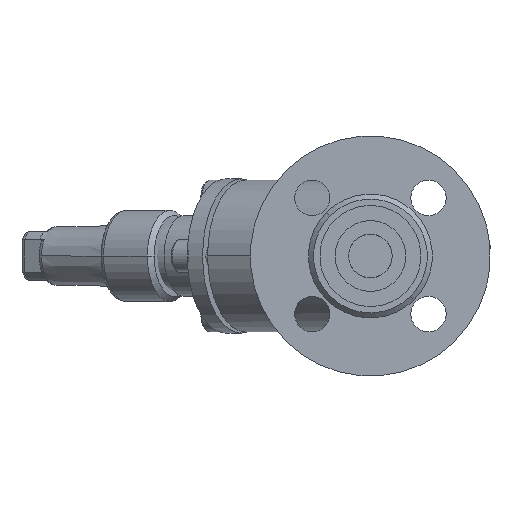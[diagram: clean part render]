
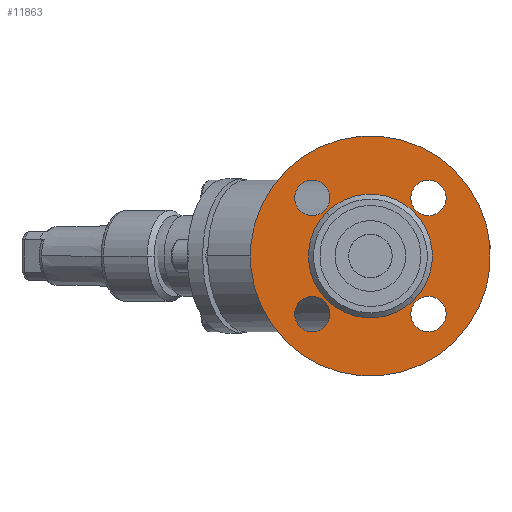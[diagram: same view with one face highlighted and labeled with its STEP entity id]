
A CAD part, left-side view. The second image highlights one B-rep face of the part: STEP entity #11863.
In plain terms, the highlighted planar face has unit normal (-1, 0, 0) as drawn and (0, -1, 0) by its records, which use the part's own axes.
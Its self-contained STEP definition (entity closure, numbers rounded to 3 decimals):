
#16756 = ORIENTED_EDGE ( 'NONE', *, *, #2184, .T. ) ;
#16940 = CIRCLE ( 'NONE', #16941, 24.5 ) ;
#16941 = AXIS2_PLACEMENT_3D ( 'NONE', #16960, #16961, #16962 ) ;
#16960 = CARTESIAN_POINT ( 'NONE',  ( 0., 2., 0. ) ) ;
#16961 = DIRECTION ( 'NONE',  ( 0., 1., 0. ) ) ;
#16962 = DIRECTION ( 'NONE',  ( -1., 0., 0. ) ) ;
#770 = VERTEX_POINT ( 'NONE', #13767 ) ;
#989 = VERTEX_POINT ( 'NONE', #14139 ) ;
#1208 = EDGE_CURVE ( 'NONE', #989, #770, #14348, .T. ) ;
#17712 = EDGE_CURVE ( 'NONE', #11559, #1966, #11832, .T. ) ;
#1334 = VERTEX_POINT ( 'NONE', #14475 ) ;
#17741 = CARTESIAN_POINT ( 'NONE',  ( -24.5, 2., 0. ) ) ;
#1551 = VERTEX_POINT ( 'NONE', #14777 ) ;
#1767 = EDGE_CURVE ( 'NONE', #1551, #1334, #14988, .T. ) ;
#18322 = CIRCLE ( 'NONE', #18323, 24.5 ) ;
#18323 = AXIS2_PLACEMENT_3D ( 'NONE', #18324, #18325, #18326 ) ;
#18324 = CARTESIAN_POINT ( 'NONE',  ( 0., 2., 0. ) ) ;
#18325 = DIRECTION ( 'NONE',  ( 0., 1., 0. ) ) ;
#18326 = DIRECTION ( 'NONE',  ( -1., 0., 0. ) ) ;
#1966 = VERTEX_POINT ( 'NONE', #15499 ) ;
#18397 = ORIENTED_EDGE ( 'NONE', *, *, #17712, .T. ) ;
#2184 = EDGE_CURVE ( 'NONE', #1966, #11559, #15772, .T. ) ;
#2581 = ORIENTED_EDGE ( 'NONE', *, *, #14025, .F. ) ;
#19387 = EDGE_LOOP ( 'NONE', ( #18397, #16756 ) ) ;
#3088 = ORIENTED_EDGE ( 'NONE', *, *, #4973, .F. ) ;
#3593 = EDGE_LOOP ( 'NONE', ( #3088, #2581 ) ) ;
#3831 = ORIENTED_EDGE ( 'NONE', *, *, #10129, .T. ) ;
#4341 = EDGE_CURVE ( 'NONE', #9694, #9911, #9636, .T. ) ;
#4535 = VERTEX_POINT ( 'NONE', #10621 ) ;
#4703 = ORIENTED_EDGE ( 'NONE', *, *, #4341, .T. ) ;
#4758 = VERTEX_POINT ( 'NONE', #10843 ) ;
#4973 = EDGE_CURVE ( 'NONE', #4758, #4535, #11003, .T. ) ;
#5203 = CIRCLE ( 'NONE', #5204, 47.5 ) ;
#5204 = AXIS2_PLACEMENT_3D ( 'NONE', #5205, #5206, #5210 ) ;
#5205 = CARTESIAN_POINT ( 'NONE',  ( 0., 2., 0. ) ) ;
#5206 = DIRECTION ( 'NONE',  ( 0., 1., 0. ) ) ;
#5208 = EDGE_LOOP ( 'NONE', ( #4703, #3831 ) ) ;
#5210 = DIRECTION ( 'NONE',  ( -1., 0., 0. ) ) ;
#5248 = CARTESIAN_POINT ( 'NONE',  ( 24.5, 2., 0. ) ) ;
#5450 = ORIENTED_EDGE ( 'NONE', *, *, #1208, .T. ) ;
#5774 = ORIENTED_EDGE ( 'NONE', *, *, #12271, .T. ) ;
#5956 = EDGE_CURVE ( 'NONE', #770, #989, #11823, .T. ) ;
#6283 = ORIENTED_EDGE ( 'NONE', *, *, #7775, .T. ) ;
#6317 = ORIENTED_EDGE ( 'NONE', *, *, #5956, .T. ) ;
#6819 = EDGE_LOOP ( 'NONE', ( #6317, #5450 ) ) ;
#6944 = EDGE_LOOP ( 'NONE', ( #6283, #5774 ) ) ;
#7014 = ORIENTED_EDGE ( 'NONE', *, *, #1767, .T. ) ;
#7562 = VERTEX_POINT ( 'NONE', #17741 ) ;
#7775 = EDGE_CURVE ( 'NONE', #7562, #8641, #18322, .T. ) ;
#8641 = VERTEX_POINT ( 'NONE', #5248 ) ;
#9636 = CIRCLE ( 'NONE', #9637, 7. ) ;
#9637 = AXIS2_PLACEMENT_3D ( 'NONE', #9638, #9641, #9642 ) ;
#9638 = CARTESIAN_POINT ( 'NONE',  ( 32.5, 2., 0. ) ) ;
#9641 = DIRECTION ( 'NONE',  ( 0., 1., 0. ) ) ;
#9642 = DIRECTION ( 'NONE',  ( -1., 0., 0. ) ) ;
#9643 = CIRCLE ( 'NONE', #9644, 7. ) ;
#9644 = AXIS2_PLACEMENT_3D ( 'NONE', #9645, #9646, #9647 ) ;
#9645 = CARTESIAN_POINT ( 'NONE',  ( -32.5, 2., 0. ) ) ;
#9646 = DIRECTION ( 'NONE',  ( 0., 1., 0. ) ) ;
#9647 = DIRECTION ( 'NONE',  ( -1., 0., 0. ) ) ;
#9694 = VERTEX_POINT ( 'NONE', #12814 ) ;
#9911 = VERTEX_POINT ( 'NONE', #13143 ) ;
#10129 = EDGE_CURVE ( 'NONE', #9911, #9694, #13960, .T. ) ;
#10621 = CARTESIAN_POINT ( 'NONE',  ( 47.5, 2., 0. ) ) ;
#10843 = CARTESIAN_POINT ( 'NONE',  ( -47.5, 2., 0. ) ) ;
#11003 = CIRCLE ( 'NONE', #11004, 47.5 ) ;
#11004 = AXIS2_PLACEMENT_3D ( 'NONE', #11005, #11006, #11007 ) ;
#11005 = CARTESIAN_POINT ( 'NONE',  ( 0., 2., 0. ) ) ;
#11006 = DIRECTION ( 'NONE',  ( 0., 1., 0. ) ) ;
#11007 = DIRECTION ( 'NONE',  ( -1., 0., 0. ) ) ;
#11559 = VERTEX_POINT ( 'NONE', #15813 ) ;
#11823 = CIRCLE ( 'NONE', #11824, 7. ) ;
#11824 = AXIS2_PLACEMENT_3D ( 'NONE', #11829, #11830, #11831 ) ;
#11829 = CARTESIAN_POINT ( 'NONE',  ( 0., 2., 32.5 ) ) ;
#11830 = DIRECTION ( 'NONE',  ( 0., 1., 0. ) ) ;
#11831 = DIRECTION ( 'NONE',  ( -1., 0., 0. ) ) ;
#11832 = CIRCLE ( 'NONE', #11833, 7. ) ;
#11833 = AXIS2_PLACEMENT_3D ( 'NONE', #11834, #11835, #11836 ) ;
#11834 = CARTESIAN_POINT ( 'NONE',  ( 0., 2., -32.5 ) ) ;
#11835 = DIRECTION ( 'NONE',  ( 0., 1., 0. ) ) ;
#11836 = DIRECTION ( 'NONE',  ( -1., 0., 0. ) ) ;
#11863 = ADVANCED_FACE ( 'NONE', ( #16079, #16080, #16081, #16082, #16083, #16084 ), #16085, .F. ) ;
#12271 = EDGE_CURVE ( 'NONE', #8641, #7562, #16940, .T. ) ;
#12814 = CARTESIAN_POINT ( 'NONE',  ( 25.5, 2., 0. ) ) ;
#13143 = CARTESIAN_POINT ( 'NONE',  ( 39.5, 2., 0. ) ) ;
#13767 = CARTESIAN_POINT ( 'NONE',  ( -7., 2., 32.5 ) ) ;
#13960 = CIRCLE ( 'NONE', #13961, 7. ) ;
#13961 = AXIS2_PLACEMENT_3D ( 'NONE', #13962, #13963, #13964 ) ;
#13962 = CARTESIAN_POINT ( 'NONE',  ( 32.5, 2., 0. ) ) ;
#13963 = DIRECTION ( 'NONE',  ( 0., 1., 0. ) ) ;
#13964 = DIRECTION ( 'NONE',  ( -1., 0., 0. ) ) ;
#14025 = EDGE_CURVE ( 'NONE', #4535, #4758, #5203, .T. ) ;
#14139 = CARTESIAN_POINT ( 'NONE',  ( 7., 2., 32.5 ) ) ;
#14348 = CIRCLE ( 'NONE', #14349, 7. ) ;
#14349 = AXIS2_PLACEMENT_3D ( 'NONE', #14368, #14369, #14370 ) ;
#14368 = CARTESIAN_POINT ( 'NONE',  ( 0., 2., 32.5 ) ) ;
#14369 = DIRECTION ( 'NONE',  ( 0., 1., 0. ) ) ;
#14370 = DIRECTION ( 'NONE',  ( -1., 0., 0. ) ) ;
#14475 = CARTESIAN_POINT ( 'NONE',  ( -39.5, 2., 0. ) ) ;
#14670 = EDGE_CURVE ( 'NONE', #1334, #1551, #9643, .T. ) ;
#14777 = CARTESIAN_POINT ( 'NONE',  ( -25.5, 2., 0. ) ) ;
#14988 = CIRCLE ( 'NONE', #14989, 7. ) ;
#14989 = AXIS2_PLACEMENT_3D ( 'NONE', #14990, #14991, #14992 ) ;
#14990 = CARTESIAN_POINT ( 'NONE',  ( -32.5, 2., 0. ) ) ;
#14991 = DIRECTION ( 'NONE',  ( 0., 1., 0. ) ) ;
#14992 = DIRECTION ( 'NONE',  ( -1., 0., 0. ) ) ;
#15358 = ORIENTED_EDGE ( 'NONE', *, *, #14670, .T. ) ;
#15499 = CARTESIAN_POINT ( 'NONE',  ( 7., 2., -32.5 ) ) ;
#15772 = CIRCLE ( 'NONE', #15773, 7. ) ;
#15773 = AXIS2_PLACEMENT_3D ( 'NONE', #15774, #15775, #15776 ) ;
#15774 = CARTESIAN_POINT ( 'NONE',  ( 0., 2., -32.5 ) ) ;
#15775 = DIRECTION ( 'NONE',  ( 0., 1., 0. ) ) ;
#15776 = DIRECTION ( 'NONE',  ( -1., 0., 0. ) ) ;
#15813 = CARTESIAN_POINT ( 'NONE',  ( -7., 2., -32.5 ) ) ;
#16079 = FACE_BOUND ( 'NONE', #19387, .T. ) ;
#16080 = FACE_BOUND ( 'NONE', #16313, .T. ) ;
#16081 = FACE_BOUND ( 'NONE', #6819, .T. ) ;
#16082 = FACE_BOUND ( 'NONE', #5208, .T. ) ;
#16083 = FACE_OUTER_BOUND ( 'NONE', #3593, .T. ) ;
#16084 = FACE_BOUND ( 'NONE', #6944, .T. ) ;
#16085 = PLANE ( 'NONE',  #16086 ) ;
#16086 = AXIS2_PLACEMENT_3D ( 'NONE', #16087, #16088, #16089 ) ;
#16087 = CARTESIAN_POINT ( 'NONE',  ( 24.5, 2., 0. ) ) ;
#16088 = DIRECTION ( 'NONE',  ( 0., 1., 0. ) ) ;
#16089 = DIRECTION ( 'NONE',  ( -1., 0., 0. ) ) ;
#16313 = EDGE_LOOP ( 'NONE', ( #15358, #7014 ) ) ;
